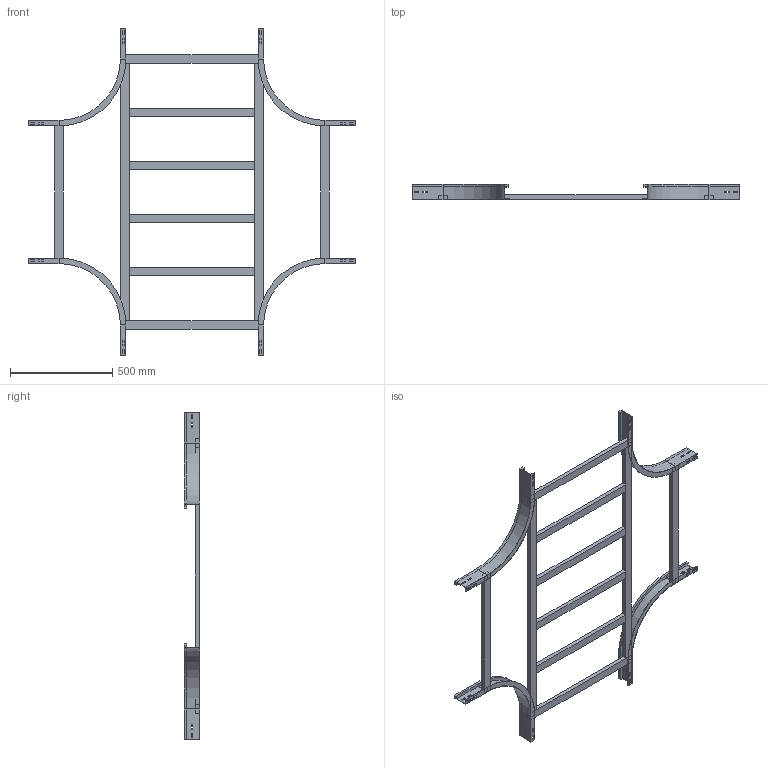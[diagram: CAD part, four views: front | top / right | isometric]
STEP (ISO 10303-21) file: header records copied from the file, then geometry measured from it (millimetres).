
FILE_DESCRIPTION (( 'STEP AP214' ), '1' );
FILE_NAME ('A2_17B3C700.step', '2025-02-21T15:58:45', ( '' ), ( '' ), 'SwSTEP 2.0', 'SolidWorks 2023', '' );
FILE_SCHEMA (( 'AUTOMOTIVE_DESIGN' ));
Length unit declared in the file: millimetre
Products named in the file (5): A2_17B3C700; A2_LONGH.INTERNO 90°_H75_R300; TRAVERSINO_700; A2_TRAVERSINO_LONG._R300+700; TRAVERSINO_INTERMEDIO_R300+700
Assembly tree (14 placements, depth 2):
  A2_17B3C700
    A2_LONGH.INTERNO 90°_H75_R300  x4
    TRAVERSINO_700  x4
    A2_TRAVERSINO_LONG._R300+700  x2
    TRAVERSINO_INTERMEDIO_R300+700  x4
Bounding box: 1600 x 75 x 1600 mm (x, y, z)
Volume: 7505038.1 mm3; surface area: 1689618.6 mm2
Topology: 14 solids, 14 shells, 292 faces, 728 edges, 464 vertices
Faces by surface type: plane 276, cylinder 16
Entity records: 2458 total; most frequent: CARTESIAN_POINT 401, DIRECTION 382, ORIENTED_EDGE 376, EDGE_CURVE 188, LINE 180, VECTOR 180, VERTEX_POINT 120, AXIS2_PLACEMENT_3D 101
